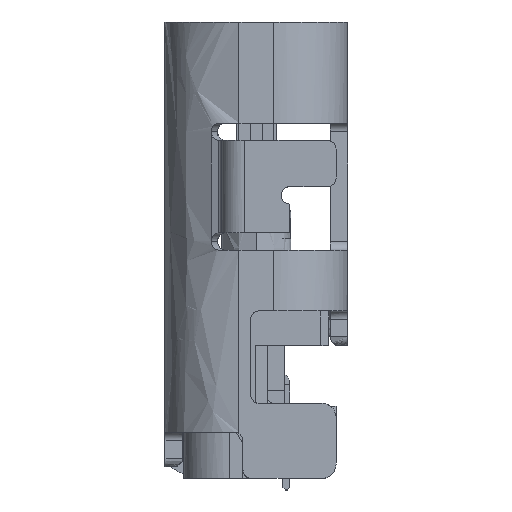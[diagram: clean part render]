
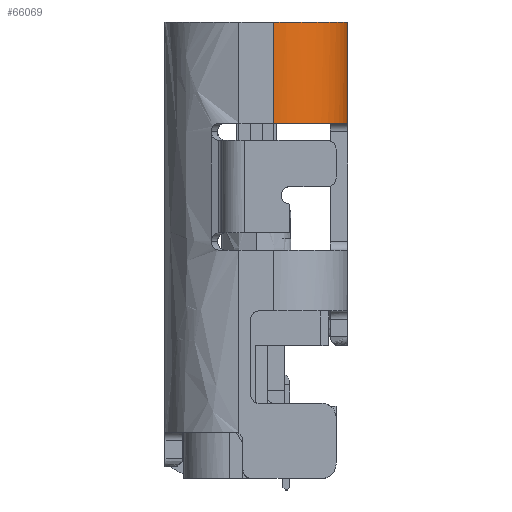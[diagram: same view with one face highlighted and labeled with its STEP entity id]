
A CAD part, front view. The second image highlights one B-rep face of the part: STEP entity #66069.
In plain terms, the highlighted free-form (B-spline) face has degree [1, 3] with [2, 4] control points.
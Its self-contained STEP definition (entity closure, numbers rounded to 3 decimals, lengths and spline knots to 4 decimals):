
#1252 = CARTESIAN_POINT ( 'NONE',  ( 1.88, -3.19, 6.4 ) ) ;
#5612 = CARTESIAN_POINT ( 'NONE',  ( 1.6236, -3.9766, 4.65 ) ) ;
#6533 = EDGE_CURVE ( 'NONE', #52855, #56320, #10498, .T. ) ;
#7055 = CARTESIAN_POINT ( 'NONE',  ( 0.935, -4.4367, 6.4 ) ) ;
#7466 = CARTESIAN_POINT ( 'NONE',  ( 1.8467, -3.525, 6.4 ) ) ;
#10498 = B_SPLINE_CURVE_WITH_KNOTS ( 'NONE', 1,
 ( #79367, #28457 ),
 .UNSPECIFIED., .F., .F.,
 ( 2, 2 ),
 ( 0., 1. ),
 .UNSPECIFIED. ) ;
#11373 = ORIENTED_EDGE ( 'NONE', *, *, #51037, .F. ) ;
#11467 = CARTESIAN_POINT ( 'NONE',  ( 0.6, -4.47, 6.4 ) ) ;
#12626 = CARTESIAN_POINT ( 'NONE',  ( 0.6, -4.47, 4.65 ) ) ;
#13246 = CARTESIAN_POINT ( 'NONE',  ( 0.6, -4.47, 6.4 ) ) ;
#13651 = CARTESIAN_POINT ( 'NONE',  ( 1.7184, -3.8346, 6.4 ) ) ;
#16223 = CARTESIAN_POINT ( 'NONE',  ( 1.88, -3.19, 4.65 ) ) ;
#17156 = CARTESIAN_POINT ( 'NONE',  ( 1.8802, -3.3576, 4.65 ) ) ;
#17556 = CARTESIAN_POINT ( 'NONE',  ( 1.88, -3.19, 4.65 ) ) ;
#19213 = CARTESIAN_POINT ( 'NONE',  ( 1.88, -3.19, 6.4 ) ) ;
#21216 = CARTESIAN_POINT ( 'NONE',  ( 0.6, -4.47, 4.65 ) ) ;
#24895 = CARTESIAN_POINT ( 'NONE',  ( 0.6, -4.47, 4.65 ) ) ;
#28457 = CARTESIAN_POINT ( 'NONE',  ( 1.88, -3.19, 4.65 ) ) ;
#32618 = CARTESIAN_POINT ( 'NONE',  ( 1.8802, -3.3576, 6.4 ) ) ;
#33608 = CARTESIAN_POINT ( 'NONE',  ( 1.3498, -4.47, 4.65 ) ) ;
#33903 = B_SPLINE_CURVE_WITH_KNOTS ( 'NONE', 1,
 ( #38930, #58822 ),
 .UNSPECIFIED., .F., .F.,
 ( 2, 2 ),
 ( 0., 1. ),
 .UNSPECIFIED. ) ;
#37401 = CARTESIAN_POINT ( 'NONE',  ( 0.935, -4.4367, 4.65 ) ) ;
#38201 = CARTESIAN_POINT ( 'NONE',  ( 1.88, -3.9398, 6.4 ) ) ;
#38930 = CARTESIAN_POINT ( 'NONE',  ( 0.6, -4.47, 4.65 ) ) ;
#39646 = CARTESIAN_POINT ( 'NONE',  ( 1.3866, -4.2136, 6.4 ) ) ;
#41194 = VERTEX_POINT ( 'NONE', #11467 ) ;
#42034 = ORIENTED_EDGE ( 'NONE', *, *, #6533, .F. ) ;
#42385 = CARTESIAN_POINT ( 'NONE',  ( 1.3866, -4.2136, 4.65 ) ) ;
#43420 = CARTESIAN_POINT ( 'NONE',  ( 1.88, -3.19, 6.4 ) ) ;
#43592 = CARTESIAN_POINT ( 'NONE',  ( 0.7676, -4.4702, 4.65 ) ) ;
#45046 = CARTESIAN_POINT ( 'NONE',  ( 1.2446, -4.3084, 6.4 ) ) ;
#46422 = ORIENTED_EDGE ( 'NONE', *, *, #52625, .F. ) ;
#47333 = EDGE_LOOP ( 'NONE', ( #66670, #46422, #11373, #42034 ) ) ;
#50626 = FACE_OUTER_BOUND ( 'NONE', #47333, .T. ) ;
#51037 = EDGE_CURVE ( 'NONE', #56320, #51405, #64030, .T. ) ;
#51405 = VERTEX_POINT ( 'NONE', #24895 ) ;
#52625 = EDGE_CURVE ( 'NONE', #51405, #41194, #33903, .T. ) ;
#52855 = VERTEX_POINT ( 'NONE', #43420 ) ;
#53018 = EDGE_CURVE ( 'NONE', #41194, #52855, #56499, .T. ) ;
#56320 = VERTEX_POINT ( 'NONE', #71170 ) ;
#56499 = B_SPLINE_CURVE_WITH_KNOTS ( 'NONE', 3,
 ( #13246, #63725, #7055, #45046, #39646, #64922, #13651, #7466, #32618, #1252 ),
 .UNSPECIFIED., .F., .F.,
 ( 4, 2, 2, 2, 4 ),
 ( 0., 0.3927, 0.7854, 1.1781, 1.5708 ),
 .UNSPECIFIED. ) ;
#58822 = CARTESIAN_POINT ( 'NONE',  ( 0.6, -4.47, 6.4 ) ) ;
#59717 = CARTESIAN_POINT ( 'NONE',  ( 1.88, -3.9398, 4.65 ) ) ;
#60120 = CARTESIAN_POINT ( 'NONE',  ( 1.3498, -4.47, 6.4 ) ) ;
#63725 = CARTESIAN_POINT ( 'NONE',  ( 0.7676, -4.4702, 6.4 ) ) ;
#64030 = B_SPLINE_CURVE_WITH_KNOTS ( 'NONE', 3,
 ( #17556, #17156, #81672, #75468, #5612, #42385, #68036, #37401, #43592, #12626 ),
 .UNSPECIFIED., .F., .F.,
 ( 4, 2, 2, 2, 4 ),
 ( 0., 0.3927, 0.7854, 1.1781, 1.5708 ),
 .UNSPECIFIED. ) ;
#64922 = CARTESIAN_POINT ( 'NONE',  ( 1.6236, -3.9766, 6.4 ) ) ;
#66069 = ADVANCED_FACE ( 'NONE', ( #50626 ), #75174, .F. ) ;
#66670 = ORIENTED_EDGE ( 'NONE', *, *, #53018, .F. ) ;
#68036 = CARTESIAN_POINT ( 'NONE',  ( 1.2446, -4.3084, 4.65 ) ) ;
#71170 = CARTESIAN_POINT ( 'NONE',  ( 1.88, -3.19, 4.65 ) ) ;
#75174 =( BOUNDED_SURFACE ( )  B_SPLINE_SURFACE ( 1, 3, ( 
 ( #19213, #38201, #60120, #78681 ),
 ( #16223, #59717, #33608, #21216 ) ),
 .UNSPECIFIED., .F., .F., .F. ) 
 B_SPLINE_SURFACE_WITH_KNOTS ( ( 2, 2 ),
 ( 4, 4 ),
 ( 0.0192, 0.9808 ),
 ( 0., 1. ),
 .UNSPECIFIED. ) 
 GEOMETRIC_REPRESENTATION_ITEM ( )  RATIONAL_B_SPLINE_SURFACE ( (
 ( 1., 0.805, 0.805, 1.),
 ( 1., 0.805, 0.805, 1.) ) ) 
 REPRESENTATION_ITEM ( '' )  SURFACE ( )  );
#75468 = CARTESIAN_POINT ( 'NONE',  ( 1.7184, -3.8346, 4.65 ) ) ;
#78681 = CARTESIAN_POINT ( 'NONE',  ( 0.6, -4.47, 6.4 ) ) ;
#79367 = CARTESIAN_POINT ( 'NONE',  ( 1.88, -3.19, 6.4 ) ) ;
#81672 = CARTESIAN_POINT ( 'NONE',  ( 1.8467, -3.525, 4.65 ) ) ;
